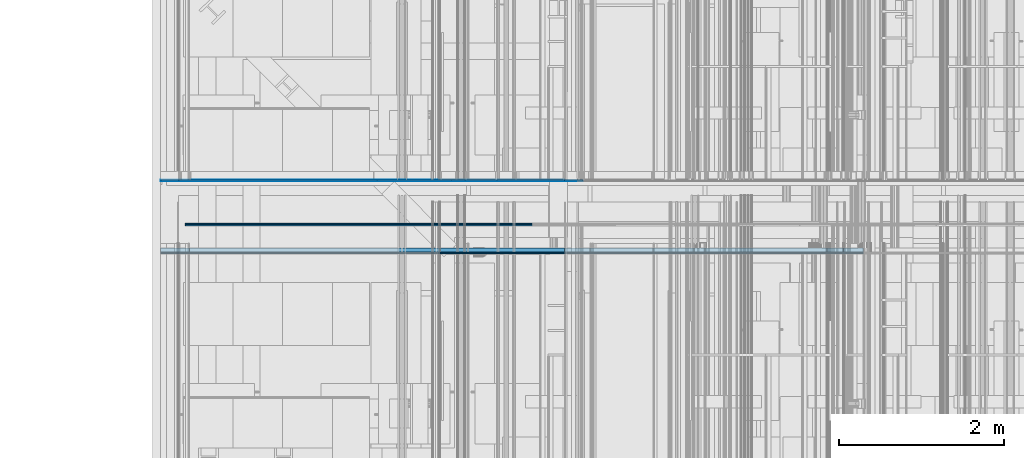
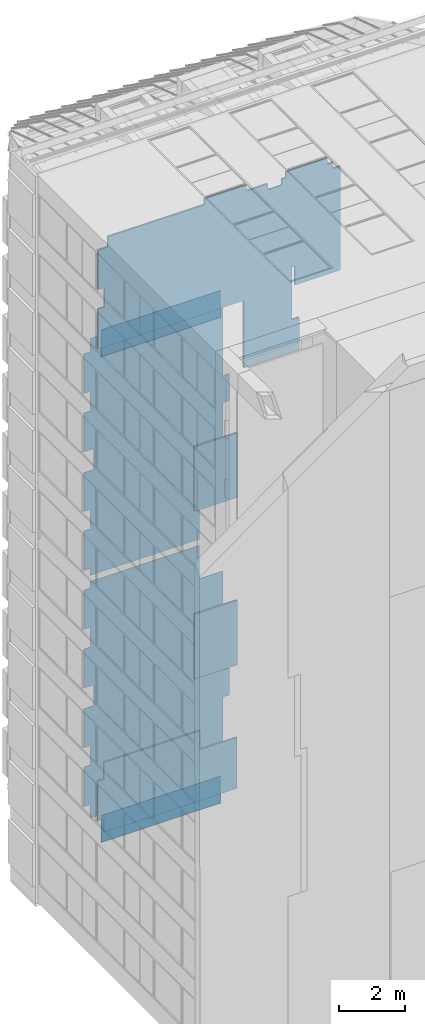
# One storey, part 251 of 583: 17 slabs.
"""IFC2X3 building model written with IfcOpenShell, lengths in metres."""

from ifc_helpers import new_model, entity, si_unit, converted_unit, derived_unit, money_unit, direction, frame, origin_with_axes, place, context, subcontext, project, spatial, faceted_brep, material, type_object, element, save


model = new_model("IFC2X3")

# Units and contexts
model_context = context("Model", 3, precision=1e-05, world=origin_with_axes(), true_north=direction((0.0, 1.0)))
body_context = subcontext(model_context, "Body", "Model", "MODEL_VIEW", scale=1.0)
ifc_project = project(units=[si_unit("LENGTHUNIT", "METRE"), si_unit("AREAUNIT", "SQUARE_METRE"), si_unit("VOLUMEUNIT", "CUBIC_METRE"), si_unit("ABSORBEDDOSEUNIT", "GRAY"), si_unit("AMOUNTOFSUBSTANCEUNIT", "MOLE"), si_unit("DOSEEQUIVALENTUNIT", "SIEVERT"), si_unit("ELECTRICCAPACITANCEUNIT", "FARAD"), si_unit("ELECTRICCHARGEUNIT", "COULOMB"), si_unit("ELECTRICCONDUCTANCEUNIT", "SIEMENS"), si_unit("ELECTRICCURRENTUNIT", "AMPERE"), si_unit("ELECTRICRESISTANCEUNIT", "OHM"), si_unit("ELECTRICVOLTAGEUNIT", "VOLT"), si_unit("ENERGYUNIT", "JOULE"), si_unit("FORCEUNIT", "NEWTON"), si_unit("FREQUENCYUNIT", "HERTZ"), si_unit("ILLUMINANCEUNIT", "LUX"), si_unit("INDUCTANCEUNIT", "HENRY"), si_unit("LUMINOUSFLUXUNIT", "LUMEN"), si_unit("LUMINOUSINTENSITYUNIT", "CANDELA"), si_unit("MAGNETICFLUXDENSITYUNIT", "TESLA"), si_unit("MAGNETICFLUXUNIT", "WEBER"), si_unit("MASSUNIT", "GRAM"), converted_unit("PLANEANGLEUNIT", "degree", entity("IfcReal", 0.0174532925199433), si_unit("PLANEANGLEUNIT", "RADIAN"), dimensions=[0, 0, 0, 0, 0, 0, 0]), si_unit("POWERUNIT", "WATT"), si_unit("PRESSUREUNIT", "PASCAL"), si_unit("RADIOACTIVITYUNIT", "BECQUEREL"), si_unit("SOLIDANGLEUNIT", "STERADIAN"), si_unit("THERMODYNAMICTEMPERATUREUNIT", "KELVIN"), si_unit("TIMEUNIT", "SECOND"), derived_unit("ACCELERATIONUNIT", [(si_unit("LENGTHUNIT", "METRE"), 1), (si_unit("TIMEUNIT", "SECOND"), -2)]), derived_unit("ANGULARVELOCITYUNIT", [(converted_unit("PLANEANGLEUNIT", "degree", entity("IfcReal", 0.0174532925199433), si_unit("PLANEANGLEUNIT", "RADIAN"), dimensions=[0, 0, 0, 0, 0, 0, 0]), 1), (si_unit("TIMEUNIT", "SECOND"), -1)]), derived_unit("CURVATUREUNIT", [(converted_unit("PLANEANGLEUNIT", "degree", entity("IfcReal", 0.0174532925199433), si_unit("PLANEANGLEUNIT", "RADIAN"), dimensions=[0, 0, 0, 0, 0, 0, 0]), 1), (si_unit("LENGTHUNIT", "METRE"), -1)]), derived_unit("DYNAMICVISCOSITYUNIT", [(si_unit("PRESSUREUNIT", "PASCAL"), 1), (si_unit("TIMEUNIT", "SECOND"), 1)]), derived_unit("HEATFLUXDENSITYUNIT", [(si_unit("POWERUNIT", "WATT"), 1), (si_unit("LENGTHUNIT", "METRE"), -2)]), derived_unit("HEATINGVALUEUNIT", [(si_unit("ENERGYUNIT", "JOULE"), 1), (si_unit("MASSUNIT", "GRAM"), -1)]), derived_unit("INTEGERCOUNTRATEUNIT", [(si_unit("TIMEUNIT", "SECOND"), -1)]), derived_unit("IONCONCENTRATIONUNIT", [(si_unit("MASSUNIT", "GRAM"), 1), (si_unit("VOLUMEUNIT", "CUBIC_METRE"), -1)]), derived_unit("ISOTHERMALMOISTURECAPACITYUNIT", [(si_unit("VOLUMEUNIT", "CUBIC_METRE"), 1), (si_unit("MASSUNIT", "GRAM"), -1)]), derived_unit("KINEMATICVISCOSITYUNIT", [(si_unit("AREAUNIT", "SQUARE_METRE"), 1), (si_unit("TIMEUNIT", "SECOND"), -1)]), derived_unit("LINEARFORCEUNIT", [(si_unit("FORCEUNIT", "NEWTON"), 1), (si_unit("LENGTHUNIT", "METRE"), -1)]), derived_unit("LINEARMOMENTUNIT", [(si_unit("FORCEUNIT", "NEWTON"), 1), (si_unit("LENGTHUNIT", "METRE"), -1)]), derived_unit("LINEARSTIFFNESSUNIT", [(si_unit("FORCEUNIT", "NEWTON"), 1), (si_unit("LENGTHUNIT", "METRE"), -1)]), derived_unit("LINEARVELOCITYUNIT", [(si_unit("LENGTHUNIT", "METRE"), 1), (si_unit("TIMEUNIT", "SECOND"), -1)]), derived_unit("LUMINOUSINTENSITYDISTRIBUTIONUNIT", [(si_unit("LUMINOUSINTENSITYUNIT", "CANDELA"), 1), (si_unit("LUMINOUSFLUXUNIT", "LUMEN"), -1)]), derived_unit("MASSDENSITYUNIT", [(si_unit("MASSUNIT", "GRAM"), 1), (si_unit("VOLUMEUNIT", "CUBIC_METRE"), -1)]), derived_unit("MASSFLOWRATEUNIT", [(si_unit("MASSUNIT", "GRAM"), 1), (si_unit("TIMEUNIT", "SECOND"), -1)]), derived_unit("MASSPERLENGTHUNIT", [(si_unit("MASSUNIT", "GRAM"), 1), (si_unit("LENGTHUNIT", "METRE"), -1)]), derived_unit("MODULUSOFELASTICITYUNIT", [(si_unit("FORCEUNIT", "NEWTON"), 1), (si_unit("AREAUNIT", "SQUARE_METRE"), -1)]), derived_unit("MODULUSOFLINEARSUBGRADEREACTIONUNIT", [(si_unit("FORCEUNIT", "NEWTON"), 1), (si_unit("LENGTHUNIT", "METRE"), -2)]), derived_unit("MODULUSOFROTATIONALSUBGRADEREACTIONUNIT", [(si_unit("FORCEUNIT", "NEWTON"), 1), (si_unit("LENGTHUNIT", "METRE"), 1)]), derived_unit("MODULUSOFSUBGRADEREACTIONUNIT", [(si_unit("FORCEUNIT", "NEWTON"), 1), (si_unit("VOLUMEUNIT", "CUBIC_METRE"), -1)]), derived_unit("MOISTUREDIFFUSIVITYUNIT", [(si_unit("VOLUMEUNIT", "CUBIC_METRE"), 1), (si_unit("TIMEUNIT", "SECOND"), -1)]), derived_unit("MOLECULARWEIGHTUNIT", [(si_unit("MASSUNIT", "GRAM"), 1), (si_unit("AMOUNTOFSUBSTANCEUNIT", "MOLE"), -1)]), derived_unit("PLANARFORCEUNIT", [(si_unit("FORCEUNIT", "NEWTON"), 1), (si_unit("LENGTHUNIT", "METRE"), -2)]), derived_unit("ROTATIONALFREQUENCYUNIT", [(si_unit("TIMEUNIT", "SECOND"), -1)]), derived_unit("ROTATIONALMASSUNIT", [(si_unit("MASSUNIT", "GRAM"), 1), (si_unit("LENGTHUNIT", "METRE"), 2)]), derived_unit("ROTATIONALSTIFFNESSUNIT", [(si_unit("FORCEUNIT", "NEWTON"), 1), (si_unit("LENGTHUNIT", "METRE"), 1), (converted_unit("PLANEANGLEUNIT", "degree", entity("IfcReal", 0.0174532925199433), si_unit("PLANEANGLEUNIT", "RADIAN"), dimensions=[0, 0, 0, 0, 0, 0, 0]), -1)]), derived_unit("SECTIONAREAINTEGRALUNIT", [(si_unit("LENGTHUNIT", "METRE"), 5)]), derived_unit("SECTIONMODULUSUNIT", [(si_unit("LENGTHUNIT", "METRE"), 3)]), derived_unit("SHEARMODULUSUNIT", [(si_unit("FORCEUNIT", "NEWTON"), 1), (si_unit("AREAUNIT", "SQUARE_METRE"), -1)]), derived_unit("SOUNDPOWERUNIT", [(si_unit("ENERGYUNIT", "JOULE"), 1), (si_unit("TIMEUNIT", "SECOND"), -1)]), derived_unit("SPECIFICHEATCAPACITYUNIT", [(si_unit("FORCEUNIT", "NEWTON"), 1), (si_unit("MASSUNIT", "GRAM"), -1), (si_unit("THERMODYNAMICTEMPERATUREUNIT", "KELVIN"), -1)]), derived_unit("TEMPERATUREGRADIENTUNIT", [(si_unit("THERMODYNAMICTEMPERATUREUNIT", "KELVIN"), 1), (si_unit("LENGTHUNIT", "METRE"), -1)]), derived_unit("THERMALADMITTANCEUNIT", [(si_unit("POWERUNIT", "WATT"), 1), (si_unit("AREAUNIT", "SQUARE_METRE"), -1), (si_unit("THERMODYNAMICTEMPERATUREUNIT", "KELVIN"), -1)]), derived_unit("THERMALCONDUCTANCEUNIT", [(si_unit("POWERUNIT", "WATT"), 1), (si_unit("LENGTHUNIT", "METRE"), -1), (si_unit("THERMODYNAMICTEMPERATUREUNIT", "KELVIN"), -1)]), derived_unit("THERMALEXPANSIONCOEFFICIENTUNIT", [(si_unit("THERMODYNAMICTEMPERATUREUNIT", "KELVIN"), -1)]), derived_unit("THERMALRESISTANCEUNIT", [(si_unit("AREAUNIT", "SQUARE_METRE"), 1), (si_unit("POWERUNIT", "WATT"), -1)]), derived_unit("THERMALTRANSMITTANCEUNIT", [(si_unit("POWERUNIT", "WATT"), 1), (si_unit("AREAUNIT", "SQUARE_METRE"), -1), (si_unit("THERMODYNAMICTEMPERATUREUNIT", "KELVIN"), -1)]), derived_unit("TORQUEUNIT", [(si_unit("FORCEUNIT", "NEWTON"), 1), (si_unit("LENGTHUNIT", "METRE"), 1)]), derived_unit("VAPORPERMEABILITYUNIT", [(si_unit("MASSUNIT", "GRAM"), 1), (si_unit("TIMEUNIT", "SECOND"), -1)]), derived_unit("VOLUMETRICFLOWRATEUNIT", [(si_unit("VOLUMEUNIT", "CUBIC_METRE"), 1), (si_unit("TIMEUNIT", "SECOND"), -1)]), derived_unit("WARPINGCONSTANTUNIT", [(si_unit("LENGTHUNIT", "METRE"), 6)]), derived_unit("WARPINGMOMENTUNIT", [(si_unit("FORCEUNIT", "NEWTON"), 1), (si_unit("LENGTHUNIT", "METRE"), 2)]), money_unit("GBP")], contexts=[model_context])

# Site, building, storey
site_placement = place(None, origin_with_axes())
site = spatial("IfcSite", under=ifc_project, at=site_placement, Name="Site", CompositionType="ELEMENT")
building_placement = place(site_placement, origin_with_axes())
building = spatial("IfcBuilding", under=site, at=building_placement, Name="Building01", CompositionType="ELEMENT")
storey_placement = place(building_placement, frame((0.0, 0.0, 20.78), z_axis=(0.0, 0.0, 1.0), x_axis=(1.0, 0.0, 0.0)))
storey = spatial("IfcBuildingStorey", under=building, at=storey_placement, Name="RL", CompositionType="ELEMENT", Elevation=20.78)

# Slabs
ifc_material_1 = material(Name="A_BSUK_ExpandedPolystyreneBoards")
slab_type_1 = type_object("IfcSlabType", Name="A-FloorsSlabs A_BSUK_Slabs", PredefinedType="FLOOR")
placement = place(storey_placement, frame((0.0, 0.0, -20.78), z_axis=(0.0, 0.0, 1.0), x_axis=(1.0, 0.0, 0.0)))
element("IfcSlab", 1, at=placement, inside=storey, type_object=slab_type_1, material=ifc_material_1, Name="A-FloorsSlabs A_BSUK_Slabs", ObjectType="CompoundSlabLeaf", context=body_context, shape_type="Brep", body=[
    faceted_brep([(4.164428, 12.13, 14.85), (4.164428, 12.133, 14.85), (4.98, 12.133, 14.85), (4.98, 12.13, 14.85), (4.164428, 12.13, 13.6125), (4.164428, 12.133, 13.6125), (0.318, 12.13, 13.6125), (0.318, 12.133, 13.6125), (0.318, 12.13, 13.865), (0.318, 12.133, 13.865), (0.1, 12.13, 13.865), (0.1, 12.133, 13.865), (0.1, 12.13, 15.335), (0.1, 12.133, 15.335), (0.318, 12.13, 15.335), (0.318, 12.133, 15.335), (0.318, 12.13, 16.055), (0.318, 12.133, 16.055), (0.1, 12.13, 16.055), (0.1, 12.133, 16.055), (0.1, 12.13, 17.502), (0.1, 12.133, 17.502), (0.448, 12.13, 17.502), (0.448, 12.133, 17.502), (0.448, 12.13, 18.268), (0.448, 12.133, 18.268), (0.1, 12.13, 18.268), (0.1, 12.133, 18.268), (0.1, 12.13, 19.715), (0.1, 12.133, 19.715), (0.318, 12.13, 19.715), (0.318, 12.133, 19.715), (0.318, 12.13, 20.435), (0.318, 12.133, 20.435), (0.1, 12.13, 20.435), (0.1, 12.133, 20.435), (0.1, 12.13, 21.905), (0.1, 12.133, 21.905), (0.318, 12.13, 21.905), (0.318, 12.133, 21.905), (0.318, 12.13, 22.4), (0.318, 12.133, 22.4), (4.98, 12.13, 22.4), (4.98, 12.133, 22.4), (4.98, 12.13, 19.392), (4.98, 12.133, 19.392), (5.205, 12.13, 19.392), (5.205, 12.133, 19.392), (5.205, 12.13, 18.392), (5.205, 12.133, 18.392), (4.98, 12.13, 18.392), (4.98, 12.133, 18.392), (4.98, 12.13, 18.0), (4.98, 12.133, 18.0)], [[[0, 1, 2, 3]], [[4, 5, 1, 0]], [[6, 7, 5, 4]], [[8, 9, 7, 6]], [[10, 11, 9, 8]], [[12, 13, 11, 10]], [[14, 15, 13, 12]], [[16, 17, 15, 14]], [[18, 19, 17, 16]], [[20, 21, 19, 18]], [[22, 23, 21, 20]], [[24, 25, 23, 22]], [[26, 27, 25, 24]], [[28, 29, 27, 26]], [[30, 31, 29, 28]], [[32, 33, 31, 30]], [[34, 35, 33, 32]], [[36, 37, 35, 34]], [[38, 39, 37, 36]], [[40, 41, 39, 38]], [[42, 43, 41, 40]], [[44, 45, 43, 42]], [[46, 47, 45, 44]], [[48, 49, 47, 46]], [[50, 51, 49, 48]], [[52, 53, 51, 50]], [[3, 2, 53, 52]], [[1, 5, 7, 9, 11, 13, 15, 17, 19, 21, 23, 25, 27, 29, 31, 33, 35, 37, 39, 41, 43, 45, 47, 49, 51, 53, 2]], [[3, 52, 50, 48, 46, 44, 42, 40, 38, 36, 34, 32, 30, 28, 26, 24, 22, 20, 18, 16, 14, 12, 10, 8, 6, 4, 0]]]),
])
element("IfcSlab", 2, at=placement, inside=storey, type_object=slab_type_1, material=ifc_material_1, Name="A-FloorsSlabs A_BSUK_Slabs", ObjectType="CompoundSlabLeaf", context=body_context, shape_type="Brep", body=[
    faceted_brep([(4.98, 12.13, 12.15), (4.98, 12.133, 12.15), (4.164428, 12.133, 12.15), (4.164428, 12.13, 12.15), (4.98, 12.13, 9.0), (4.98, 12.133, 9.0), (4.98, 12.13, 8.4725), (4.98, 12.133, 8.4725), (5.205, 12.13, 8.4725), (5.205, 12.133, 8.4725), (5.205, 12.13, 7.4725), (5.205, 12.133, 7.4725), (4.98, 12.13, 7.4725), (4.98, 12.133, 7.4725), (4.98, 12.13, 4.61), (4.98, 12.133, 4.61), (0.318, 12.13, 4.61), (0.318, 12.133, 4.61), (0.318, 12.13, 5.105), (0.318, 12.133, 5.105), (0.1, 12.13, 5.105), (0.1, 12.133, 5.105), (0.1, 12.13, 6.575), (0.1, 12.133, 6.575), (0.318, 12.13, 6.575), (0.318, 12.133, 6.575), (0.318, 12.13, 7.295), (0.318, 12.133, 7.295), (0.1, 12.13, 7.295), (0.1, 12.133, 7.295), (0.1, 12.13, 8.742), (0.1, 12.133, 8.742), (0.448, 12.13, 8.742), (0.448, 12.133, 8.742), (0.448, 12.13, 9.508), (0.448, 12.133, 9.508), (0.1, 12.13, 9.508), (0.1, 12.133, 9.508), (0.1, 12.13, 10.955), (0.1, 12.133, 10.955), (0.318, 12.13, 10.955), (0.318, 12.133, 10.955), (0.318, 12.13, 11.675), (0.318, 12.133, 11.675), (0.1, 12.13, 11.675), (0.1, 12.133, 11.675), (0.1, 12.13, 13.145), (0.1, 12.133, 13.145), (0.318, 12.13, 13.145), (0.318, 12.133, 13.145), (0.318, 12.13, 13.3875), (0.318, 12.133, 13.3875), (4.164428, 12.13, 13.3875), (4.164428, 12.133, 13.3875)], [[[0, 1, 2, 3]], [[4, 5, 1, 0]], [[6, 7, 5, 4]], [[8, 9, 7, 6]], [[10, 11, 9, 8]], [[12, 13, 11, 10]], [[14, 15, 13, 12]], [[16, 17, 15, 14]], [[18, 19, 17, 16]], [[20, 21, 19, 18]], [[22, 23, 21, 20]], [[24, 25, 23, 22]], [[26, 27, 25, 24]], [[28, 29, 27, 26]], [[30, 31, 29, 28]], [[32, 33, 31, 30]], [[34, 35, 33, 32]], [[36, 37, 35, 34]], [[38, 39, 37, 36]], [[40, 41, 39, 38]], [[42, 43, 41, 40]], [[44, 45, 43, 42]], [[46, 47, 45, 44]], [[48, 49, 47, 46]], [[50, 51, 49, 48]], [[52, 53, 51, 50]], [[3, 2, 53, 52]], [[1, 5, 7, 9, 11, 13, 15, 17, 19, 21, 23, 25, 27, 29, 31, 33, 35, 37, 39, 41, 43, 45, 47, 49, 51, 53, 2]], [[3, 52, 50, 48, 46, 44, 42, 40, 38, 36, 34, 32, 30, 28, 26, 24, 22, 20, 18, 16, 14, 12, 10, 8, 6, 4, 0]]]),
])
ifc_material_2 = material(Name="A_BSUK_Parquet_Floor")
element("IfcSlab", 3, at=placement, inside=storey, type_object=slab_type_1, material=ifc_material_2, Name="A-FloorsSlabs A_BSUK_Slabs", ObjectType="CompoundSlabLeaf", context=body_context, shape_type="Brep", body=[
    faceted_brep([(4.98, 12.133, 18.392), (4.98, 12.145, 18.392), (5.205, 12.145, 18.392), (5.205, 12.133, 18.392), (4.98, 12.133, 17.9025), (4.98, 12.145, 17.9025), (4.363781, 12.133, 17.9025), (4.363781, 12.145, 17.9025), (4.363781, 12.133, 17.8075), (4.363781, 12.145, 17.8075), (3.613781, 12.133, 17.8075), (3.613781, 12.145, 17.8075), (3.613781, 12.133, 17.9025), (3.613781, 12.145, 17.9025), (3.385, 12.133, 17.9025), (3.385, 12.145, 17.9025), (3.385, 12.133, 15.3125), (3.385, 12.145, 15.3125), (4.98, 12.133, 15.3125), (4.98, 12.145, 15.3125), (4.98, 12.133, 14.85), (4.98, 12.145, 14.85), (4.164428, 12.133, 14.85), (4.164428, 12.145, 14.85), (4.164428, 12.133, 13.6125), (4.164428, 12.145, 13.6125), (0.318, 12.133, 13.6125), (0.318, 12.145, 13.6125), (0.318, 12.133, 13.865), (0.318, 12.145, 13.865), (0.1, 12.133, 13.865), (0.1, 12.145, 13.865), (0.1, 12.133, 15.335), (0.1, 12.145, 15.335), (0.318, 12.133, 15.335), (0.318, 12.145, 15.335), (0.318, 12.133, 16.055), (0.318, 12.145, 16.055), (0.1, 12.133, 16.055), (0.1, 12.145, 16.055), (0.1, 12.133, 17.502), (0.1, 12.145, 17.502), (0.448, 12.133, 17.502), (0.448, 12.145, 17.502), (0.448, 12.133, 18.268), (0.448, 12.145, 18.268), (0.1, 12.133, 18.268), (0.1, 12.145, 18.268), (0.1, 12.133, 19.715), (0.1, 12.145, 19.715), (2.716, 12.133, 19.715), (2.716, 12.145, 19.715), (2.716, 12.133, 19.81), (2.716, 12.145, 19.81), (3.616, 12.133, 19.81), (3.616, 12.145, 19.81), (3.616, 12.133, 19.715), (3.616, 12.145, 19.715), (3.78, 12.133, 19.715), (3.78, 12.145, 19.715), (3.78, 12.133, 20.415), (3.78, 12.145, 20.415), (4.98, 12.133, 20.415), (4.98, 12.145, 20.415), (4.98, 12.133, 19.392), (4.98, 12.145, 19.392), (5.205, 12.133, 19.392), (5.205, 12.145, 19.392)], [[[0, 1, 2, 3]], [[4, 5, 1, 0]], [[6, 7, 5, 4]], [[8, 9, 7, 6]], [[10, 11, 9, 8]], [[12, 13, 11, 10]], [[14, 15, 13, 12]], [[16, 17, 15, 14]], [[18, 19, 17, 16]], [[20, 21, 19, 18]], [[22, 23, 21, 20]], [[24, 25, 23, 22]], [[26, 27, 25, 24]], [[28, 29, 27, 26]], [[30, 31, 29, 28]], [[32, 33, 31, 30]], [[34, 35, 33, 32]], [[36, 37, 35, 34]], [[38, 39, 37, 36]], [[40, 41, 39, 38]], [[42, 43, 41, 40]], [[44, 45, 43, 42]], [[46, 47, 45, 44]], [[48, 49, 47, 46]], [[50, 51, 49, 48]], [[52, 53, 51, 50]], [[54, 55, 53, 52]], [[56, 57, 55, 54]], [[58, 59, 57, 56]], [[60, 61, 59, 58]], [[62, 63, 61, 60]], [[64, 65, 63, 62]], [[66, 67, 65, 64]], [[3, 2, 67, 66]], [[1, 5, 7, 9, 11, 13, 15, 17, 19, 21, 23, 25, 27, 29, 31, 33, 35, 37, 39, 41, 43, 45, 47, 49, 51, 53, 55, 57, 59, 61, 63, 65, 67, 2]], [[3, 66, 64, 62, 60, 58, 56, 54, 52, 50, 48, 46, 44, 42, 40, 38, 36, 34, 32, 30, 28, 26, 24, 22, 20, 18, 16, 14, 12, 10, 8, 6, 4, 0]]]),
])
ifc_material_3 = material(Name="A_BSUK_Carpet-Pile")
element("IfcSlab", 4, at=placement, inside=storey, type_object=slab_type_1, material=ifc_material_3, Name="A-FloorsSlabs A_BSUK_Slabs", ObjectType="CompoundSlabLeaf", context=body_context, shape_type="Brep", body=[
    faceted_brep([(4.98, 12.133, 20.51), (4.98, 12.145, 20.51), (4.98, 12.145, 22.4), (4.98, 12.133, 22.4), (3.685, 12.133, 20.51), (3.685, 12.145, 20.51), (3.685, 12.133, 19.81), (3.685, 12.145, 19.81), (0.318, 12.133, 19.81), (0.318, 12.145, 19.81), (0.318, 12.133, 20.435), (0.318, 12.145, 20.435), (0.1, 12.133, 20.435), (0.1, 12.145, 20.435), (0.1, 12.133, 21.905), (0.1, 12.145, 21.905), (0.318, 12.133, 21.905), (0.318, 12.145, 21.905), (0.318, 12.133, 22.4), (0.318, 12.145, 22.4)], [[[0, 1, 2, 3]], [[4, 5, 1, 0]], [[6, 7, 5, 4]], [[8, 9, 7, 6]], [[10, 11, 9, 8]], [[12, 13, 11, 10]], [[14, 15, 13, 12]], [[16, 17, 15, 14]], [[18, 19, 17, 16]], [[3, 2, 19, 18]], [[1, 5, 7, 9, 11, 13, 15, 17, 19, 2]], [[3, 18, 16, 14, 12, 10, 8, 6, 4, 0]]]),
])
element("IfcSlab", 5, at=placement, inside=storey, type_object=slab_type_1, material=ifc_material_2, Name="A-FloorsSlabs A_BSUK_Slabs", ObjectType="CompoundSlabLeaf", context=body_context, shape_type="Brep", body=[
    faceted_brep([(5.205, 12.133, 8.4725), (5.205, 12.145, 8.4725), (4.98, 12.145, 8.4725), (4.98, 12.133, 8.4725), (5.205, 12.133, 7.4725), (5.205, 12.145, 7.4725), (4.98, 12.133, 7.4725), (4.98, 12.145, 7.4725), (4.98, 12.133, 6.595), (4.98, 12.145, 6.595), (3.78, 12.133, 6.595), (3.78, 12.145, 6.595), (3.78, 12.133, 7.295), (3.78, 12.145, 7.295), (3.616, 12.133, 7.295), (3.616, 12.145, 7.295), (3.616, 12.133, 7.2), (3.616, 12.145, 7.2), (2.716, 12.133, 7.2), (2.716, 12.145, 7.2), (2.716, 12.133, 7.295), (2.716, 12.145, 7.295), (0.1, 12.133, 7.295), (0.1, 12.145, 7.295), (0.1, 12.133, 8.742), (0.1, 12.145, 8.742), (0.448, 12.133, 8.742), (0.448, 12.145, 8.742), (0.448, 12.133, 9.508), (0.448, 12.145, 9.508), (0.1, 12.133, 9.508), (0.1, 12.145, 9.508), (0.1, 12.133, 10.955), (0.1, 12.145, 10.955), (0.318, 12.133, 10.955), (0.318, 12.145, 10.955), (0.318, 12.133, 11.675), (0.318, 12.145, 11.675), (0.1, 12.133, 11.675), (0.1, 12.145, 11.675), (0.1, 12.133, 13.145), (0.1, 12.145, 13.145), (0.318, 12.133, 13.145), (0.318, 12.145, 13.145), (0.318, 12.133, 13.3875), (0.318, 12.145, 13.3875), (4.164428, 12.133, 13.3875), (4.164428, 12.145, 13.3875), (4.164428, 12.133, 12.15), (4.164428, 12.145, 12.15), (4.98, 12.133, 12.15), (4.98, 12.145, 12.15), (4.98, 12.133, 11.687536), (4.98, 12.145, 11.687536), (3.385, 12.133, 11.687536), (3.385, 12.145, 11.687536), (3.385, 12.133, 9.097536), (3.385, 12.145, 9.097536), (3.613781, 12.133, 9.097536), (3.613781, 12.145, 9.097536), (3.613781, 12.133, 9.192536), (3.613781, 12.145, 9.192536), (4.363781, 12.133, 9.192536), (4.363781, 12.145, 9.192536), (4.363781, 12.133, 9.097536), (4.363781, 12.145, 9.097536), (4.98, 12.133, 9.097536), (4.98, 12.145, 9.097536)], [[[0, 1, 2, 3]], [[4, 5, 1, 0]], [[6, 7, 5, 4]], [[8, 9, 7, 6]], [[10, 11, 9, 8]], [[12, 13, 11, 10]], [[14, 15, 13, 12]], [[16, 17, 15, 14]], [[18, 19, 17, 16]], [[20, 21, 19, 18]], [[22, 23, 21, 20]], [[24, 25, 23, 22]], [[26, 27, 25, 24]], [[28, 29, 27, 26]], [[30, 31, 29, 28]], [[32, 33, 31, 30]], [[34, 35, 33, 32]], [[36, 37, 35, 34]], [[38, 39, 37, 36]], [[40, 41, 39, 38]], [[42, 43, 41, 40]], [[44, 45, 43, 42]], [[46, 47, 45, 44]], [[48, 49, 47, 46]], [[50, 51, 49, 48]], [[52, 53, 51, 50]], [[54, 55, 53, 52]], [[56, 57, 55, 54]], [[58, 59, 57, 56]], [[60, 61, 59, 58]], [[62, 63, 61, 60]], [[64, 65, 63, 62]], [[66, 67, 65, 64]], [[3, 2, 67, 66]], [[1, 5, 7, 9, 11, 13, 15, 17, 19, 21, 23, 25, 27, 29, 31, 33, 35, 37, 39, 41, 43, 45, 47, 49, 51, 53, 55, 57, 59, 61, 63, 65, 67, 2]], [[3, 66, 64, 62, 60, 58, 56, 54, 52, 50, 48, 46, 44, 42, 40, 38, 36, 34, 32, 30, 28, 26, 24, 22, 20, 18, 16, 14, 12, 10, 8, 6, 4, 0]]]),
])
element("IfcSlab", 6, at=placement, inside=storey, type_object=slab_type_1, material=ifc_material_3, Name="A-FloorsSlabs A_BSUK_Slabs", ObjectType="CompoundSlabLeaf", context=body_context, shape_type="Brep", body=[
    faceted_brep([(4.98, 12.133, 4.61), (4.98, 12.145, 4.61), (4.98, 12.145, 6.5), (4.98, 12.133, 6.5), (0.318, 12.133, 4.61), (0.318, 12.145, 4.61), (0.318, 12.133, 5.105), (0.318, 12.145, 5.105), (0.1, 12.133, 5.105), (0.1, 12.145, 5.105), (0.1, 12.133, 6.575), (0.1, 12.145, 6.575), (0.318, 12.133, 6.575), (0.318, 12.145, 6.575), (0.318, 12.133, 7.2), (0.318, 12.145, 7.2), (3.685, 12.133, 7.2), (3.685, 12.145, 7.2), (3.685, 12.133, 6.5), (3.685, 12.145, 6.5)], [[[0, 1, 2, 3]], [[4, 5, 1, 0]], [[6, 7, 5, 4]], [[8, 9, 7, 6]], [[10, 11, 9, 8]], [[12, 13, 11, 10]], [[14, 15, 13, 12]], [[16, 17, 15, 14]], [[18, 19, 17, 16]], [[3, 2, 19, 18]], [[1, 5, 7, 9, 11, 13, 15, 17, 19, 2]], [[3, 18, 16, 14, 12, 10, 8, 6, 4, 0]]]),
])
ifc_material_4 = material(Name="A_BSUK_CeilingSoffitFinishes_Suspended")
element("IfcSlab", 7, at=placement, inside=storey, type_object=slab_type_1, material=ifc_material_4, Name="A-FloorsSlabs A_BSUK_Slabs", ObjectType="CompoundSlabLeaf", context=body_context, shape_type="Brep", body=[
    faceted_brep([(4.98, 11.255, 9.192536), (4.98, 11.27, 9.192536), (4.98, 11.27, 11.592536), (4.98, 11.255, 11.592536), (3.48, 11.255, 9.192536), (3.48, 11.27, 9.192536), (3.48, 11.255, 11.592536), (3.48, 11.27, 11.592536), (4.259428, 11.255, 11.592536), (4.259428, 11.27, 11.592536)], [[[0, 1, 2, 3]], [[4, 5, 1, 0]], [[6, 7, 5, 4]], [[8, 9, 7, 6]], [[3, 2, 9, 8]], [[1, 5, 7, 9, 2]], [[3, 8, 6, 4, 0]]]),
])
element("IfcSlab", 8, at=placement, inside=storey, type_object=slab_type_1, material=ifc_material_4, Name="A-FloorsSlabs A_BSUK_Slabs", ObjectType="CompoundSlabLeaf", context=body_context, shape_type="Brep", body=[
    faceted_brep([(5.457147, 11.255, 20.122661), (5.457147, 11.27, 20.122661), (6.457147, 11.27, 20.122661), (6.457147, 11.255, 20.122661), (5.205, 11.255, 20.122661), (5.205, 11.27, 20.122661), (5.205, 11.255, 22.625), (5.205, 11.27, 22.625), (0.1, 11.255, 22.625), (0.1, 11.27, 22.625), (0.1, 11.255, 24.095), (0.1, 11.27, 24.095), (0.318, 11.255, 24.095), (0.318, 11.27, 24.095), (0.318, 11.255, 24.815), (0.318, 11.27, 24.815), (0.1, 11.255, 24.815), (0.1, 11.27, 24.815), (0.1, 11.255, 26.285), (0.1, 11.27, 26.285), (0.448, 11.255, 26.285), (0.448, 11.27, 26.285), (0.448, 11.255, 26.662), (0.448, 11.27, 26.662), (3.82218, 11.255, 26.662), (3.82218, 11.27, 26.662), (3.82218, 11.255, 26.88), (3.82218, 11.27, 26.88), (5.29218, 11.255, 26.88), (5.29218, 11.27, 26.88), (5.29218, 11.255, 26.662), (5.29218, 11.27, 26.662), (6.052, 11.255, 26.662), (6.052, 11.27, 26.662), (6.052, 11.255, 26.432), (6.052, 11.27, 26.432), (6.548, 11.255, 26.432), (6.548, 11.27, 26.432), (6.548, 11.255, 26.662), (6.548, 11.27, 26.662), (6.682326, 11.255, 26.662), (6.682326, 11.27, 26.662), (6.682326, 11.255, 26.88), (6.682326, 11.27, 26.88), (8.137326, 11.255, 26.88), (8.137326, 11.27, 26.88), (8.137326, 11.255, 26.647), (8.137326, 11.27, 26.647), (8.337, 11.255, 26.647), (8.337, 11.27, 26.647), (8.337, 11.255, 26.417), (8.337, 11.27, 26.417), (8.595, 11.255, 26.417), (8.595, 11.27, 26.417), (8.595, 11.255, 22.571661), (8.595, 11.27, 22.571661), (7.0, 11.255, 22.571661), (7.0, 11.27, 22.571661), (7.0, 11.255, 23.271529), (7.0, 11.27, 23.271529), (6.955, 11.255, 23.271529), (6.955, 11.27, 23.271529), (6.905, 11.255, 23.271529), (6.905, 11.27, 23.271529), (6.905, 11.255, 21.322661), (6.905, 11.27, 21.322661), (7.155, 11.255, 21.322661), (7.155, 11.27, 21.322661), (7.155, 11.255, 20.122661), (7.155, 11.27, 20.122661)], [[[0, 1, 2, 3]], [[4, 5, 1, 0]], [[6, 7, 5, 4]], [[8, 9, 7, 6]], [[10, 11, 9, 8]], [[12, 13, 11, 10]], [[14, 15, 13, 12]], [[16, 17, 15, 14]], [[18, 19, 17, 16]], [[20, 21, 19, 18]], [[22, 23, 21, 20]], [[24, 25, 23, 22]], [[26, 27, 25, 24]], [[28, 29, 27, 26]], [[30, 31, 29, 28]], [[32, 33, 31, 30]], [[34, 35, 33, 32]], [[36, 37, 35, 34]], [[38, 39, 37, 36]], [[40, 41, 39, 38]], [[42, 43, 41, 40]], [[44, 45, 43, 42]], [[46, 47, 45, 44]], [[48, 49, 47, 46]], [[50, 51, 49, 48]], [[52, 53, 51, 50]], [[54, 55, 53, 52]], [[56, 57, 55, 54]], [[58, 59, 57, 56]], [[60, 61, 59, 58]], [[62, 63, 61, 60]], [[64, 65, 63, 62]], [[66, 67, 65, 64]], [[68, 69, 67, 66]], [[3, 2, 69, 68]], [[1, 5, 7, 9, 11, 13, 15, 17, 19, 21, 23, 25, 27, 29, 31, 33, 35, 37, 39, 41, 43, 45, 47, 49, 51, 53, 55, 57, 59, 61, 63, 65, 67, 69, 2]], [[3, 68, 66, 64, 62, 60, 58, 56, 54, 52, 50, 48, 46, 44, 42, 40, 38, 36, 34, 32, 30, 28, 26, 24, 22, 20, 18, 16, 14, 12, 10, 8, 6, 4, 0]]]),
])
element("IfcSlab", 9, at=placement, inside=storey, type_object=slab_type_1, material=ifc_material_4, Name="A-FloorsSlabs A_BSUK_Slabs", ObjectType="CompoundSlabLeaf", context=body_context, shape_type="Brep", body=[
    faceted_brep([(4.98, 11.255, 15.4075), (4.98, 11.27, 15.4075), (4.98, 11.27, 17.8075), (4.98, 11.255, 17.8075), (4.259428, 11.255, 15.4075), (4.259428, 11.27, 15.4075), (3.48, 11.255, 15.4075), (3.48, 11.27, 15.4075), (3.48, 11.255, 17.8075), (3.48, 11.27, 17.8075)], [[[0, 1, 2, 3]], [[4, 5, 1, 0]], [[6, 7, 5, 4]], [[8, 9, 7, 6]], [[3, 2, 9, 8]], [[1, 5, 7, 9, 2]], [[3, 8, 6, 4, 0]]]),
])
element("IfcSlab", 10, at=placement, inside=storey, type_object=slab_type_1, material=ifc_material_4, Name="A-FloorsSlabs A_BSUK_Slabs", ObjectType="CompoundSlabLeaf", context=body_context, shape_type="Brep", body=[
    faceted_brep([(0.4, 11.605, 22.0125), (0.4, 11.62, 22.0125), (4.593, 11.62, 22.0125), (4.593, 11.605, 22.0125), (0.4, 11.605, 23.0125), (0.4, 11.62, 23.0125), (4.593, 11.605, 23.0125), (4.593, 11.62, 23.0125)], [[[0, 1, 2, 3]], [[4, 5, 1, 0]], [[6, 7, 5, 4]], [[3, 2, 7, 6]], [[1, 5, 7, 2]], [[3, 6, 4, 0]]]),
])
element("IfcSlab", 11, at=placement, inside=storey, type_object=slab_type_1, material=ifc_material_4, Name="A-FloorsSlabs A_BSUK_Slabs", ObjectType="CompoundSlabLeaf", context=body_context, shape_type="Brep", body=[
    faceted_brep([(0.4, 11.605, 3.997), (0.4, 11.62, 3.997), (4.593, 11.62, 3.997), (4.593, 11.605, 3.997), (0.4, 11.605, 4.997), (0.4, 11.62, 4.997), (4.593, 11.605, 4.997), (4.593, 11.62, 4.997)], [[[0, 1, 2, 3]], [[4, 5, 1, 0]], [[6, 7, 5, 4]], [[3, 2, 7, 6]], [[1, 5, 7, 2]], [[3, 6, 4, 0]]]),
])
element("IfcSlab", 12, at=placement, inside=storey, type_object=slab_type_1, material=ifc_material_4, Name="A-FloorsSlabs A_BSUK_Slabs", ObjectType="CompoundSlabLeaf", context=body_context, shape_type="Brep", body=[
    faceted_brep([(0.4, 11.59, 22.0125), (0.4, 11.605, 22.0125), (4.593, 11.605, 22.0125), (4.593, 11.59, 22.0125), (0.4, 11.59, 23.0125), (0.4, 11.605, 23.0125), (4.593, 11.59, 23.0125), (4.593, 11.605, 23.0125)], [[[0, 1, 2, 3]], [[4, 5, 1, 0]], [[6, 7, 5, 4]], [[3, 2, 7, 6]], [[1, 5, 7, 2]], [[3, 6, 4, 0]]]),
])
element("IfcSlab", 13, at=placement, inside=storey, type_object=slab_type_1, material=ifc_material_4, Name="A-FloorsSlabs A_BSUK_Slabs", ObjectType="CompoundSlabLeaf", context=body_context, shape_type="Brep", body=[
    faceted_brep([(0.4, 11.59, 3.997), (0.4, 11.605, 3.997), (4.593, 11.605, 3.997), (4.593, 11.59, 3.997), (0.4, 11.59, 4.997), (0.4, 11.605, 4.997), (4.593, 11.59, 4.997), (4.593, 11.605, 4.997)], [[[0, 1, 2, 3]], [[4, 5, 1, 0]], [[6, 7, 5, 4]], [[3, 2, 7, 6]], [[1, 5, 7, 2]], [[3, 6, 4, 0]]]),
])
slab_type_2 = type_object("IfcSlabType", Name="A-FloorsSlabs A_BSUK_ExpandedPolystyreneBoards", PredefinedType="FLOOR")
element("IfcSlab", 14, at=placement, inside=storey, type_object=slab_type_2, material=ifc_material_1, Name="A-FloorsSlabs A_BSUK_ExpandedPolystyreneBoards", ObjectType="CompoundSlabLeaf", context=body_context, shape_type="Brep", body=[
    faceted_brep([(4.98, 11.27, 9.192536), (4.98, 11.32, 9.192536), (4.98, 11.32, 11.592536), (4.98, 11.27, 11.592536), (3.48, 11.27, 9.192536), (3.48, 11.32, 9.192536), (3.48, 11.27, 11.592536), (3.48, 11.32, 11.592536), (4.259428, 11.27, 11.592536), (4.259428, 11.32, 11.592536)], [[[0, 1, 2, 3]], [[4, 5, 1, 0]], [[6, 7, 5, 4]], [[8, 9, 7, 6]], [[3, 2, 9, 8]], [[1, 5, 7, 9, 2]], [[3, 8, 6, 4, 0]]]),
])
element("IfcSlab", 15, at=placement, inside=storey, type_object=slab_type_2, material=ifc_material_1, Name="A-FloorsSlabs A_BSUK_ExpandedPolystyreneBoards", ObjectType="CompoundSlabLeaf", context=body_context, shape_type="Brep", body=[
    faceted_brep([(5.457147, 11.27, 20.122661), (5.457147, 11.32, 20.122661), (6.457147, 11.32, 20.122661), (6.457147, 11.27, 20.122661), (5.205, 11.27, 20.122661), (5.205, 11.32, 20.122661), (5.205, 11.27, 22.625), (5.205, 11.32, 22.625), (0.1, 11.27, 22.625), (0.1, 11.32, 22.625), (0.1, 11.27, 24.095), (0.1, 11.32, 24.095), (0.318, 11.27, 24.095), (0.318, 11.32, 24.095), (0.318, 11.27, 24.815), (0.318, 11.32, 24.815), (0.1, 11.27, 24.815), (0.1, 11.32, 24.815), (0.1, 11.27, 26.285), (0.1, 11.32, 26.285), (0.448, 11.27, 26.285), (0.448, 11.32, 26.285), (0.448, 11.27, 26.662), (0.448, 11.32, 26.662), (3.82218, 11.27, 26.662), (3.82218, 11.32, 26.662), (3.82218, 11.27, 26.88), (3.82218, 11.32, 26.88), (5.29218, 11.27, 26.88), (5.29218, 11.32, 26.88), (5.29218, 11.27, 26.662), (5.29218, 11.32, 26.662), (6.052, 11.27, 26.662), (6.052, 11.32, 26.662), (6.052, 11.27, 26.432), (6.052, 11.32, 26.432), (6.548, 11.27, 26.432), (6.548, 11.32, 26.432), (6.548, 11.27, 26.662), (6.548, 11.32, 26.662), (6.682326, 11.27, 26.662), (6.682326, 11.32, 26.662), (6.682326, 11.27, 26.88), (6.682326, 11.32, 26.88), (8.152326, 11.27, 26.88), (8.152326, 11.32, 26.88), (8.152326, 11.27, 26.662), (8.152326, 11.32, 26.662), (8.352, 11.27, 26.662), (8.352, 11.32, 26.662), (8.352, 11.27, 26.432), (8.352, 11.32, 26.432), (8.595, 11.27, 26.432), (8.595, 11.32, 26.432), (8.595, 11.27, 22.571661), (8.595, 11.32, 22.571661), (7.0, 11.27, 22.571661), (7.0, 11.32, 22.571661), (7.0, 11.27, 23.271529), (7.0, 11.32, 23.271529), (6.955, 11.27, 23.271529), (6.955, 11.32, 23.271529), (6.905, 11.27, 23.271529), (6.905, 11.32, 23.271529), (6.905, 11.27, 21.322661), (6.905, 11.32, 21.322661), (7.155, 11.27, 21.322661), (7.155, 11.32, 21.322661), (7.155, 11.27, 20.122661), (7.155, 11.32, 20.122661)], [[[0, 1, 2, 3]], [[4, 5, 1, 0]], [[6, 7, 5, 4]], [[8, 9, 7, 6]], [[10, 11, 9, 8]], [[12, 13, 11, 10]], [[14, 15, 13, 12]], [[16, 17, 15, 14]], [[18, 19, 17, 16]], [[20, 21, 19, 18]], [[22, 23, 21, 20]], [[24, 25, 23, 22]], [[26, 27, 25, 24]], [[28, 29, 27, 26]], [[30, 31, 29, 28]], [[32, 33, 31, 30]], [[34, 35, 33, 32]], [[36, 37, 35, 34]], [[38, 39, 37, 36]], [[40, 41, 39, 38]], [[42, 43, 41, 40]], [[44, 45, 43, 42]], [[46, 47, 45, 44]], [[48, 49, 47, 46]], [[50, 51, 49, 48]], [[52, 53, 51, 50]], [[54, 55, 53, 52]], [[56, 57, 55, 54]], [[58, 59, 57, 56]], [[60, 61, 59, 58]], [[62, 63, 61, 60]], [[64, 65, 63, 62]], [[66, 67, 65, 64]], [[68, 69, 67, 66]], [[3, 2, 69, 68]], [[1, 5, 7, 9, 11, 13, 15, 17, 19, 21, 23, 25, 27, 29, 31, 33, 35, 37, 39, 41, 43, 45, 47, 49, 51, 53, 55, 57, 59, 61, 63, 65, 67, 69, 2]], [[3, 68, 66, 64, 62, 60, 58, 56, 54, 52, 50, 48, 46, 44, 42, 40, 38, 36, 34, 32, 30, 28, 26, 24, 22, 20, 18, 16, 14, 12, 10, 8, 6, 4, 0]]]),
])
element("IfcSlab", 16, at=placement, inside=storey, type_object=slab_type_2, material=ifc_material_1, Name="A-FloorsSlabs A_BSUK_ExpandedPolystyreneBoards", ObjectType="CompoundSlabLeaf", context=body_context, shape_type="Brep", body=[
    faceted_brep([(4.98, 11.27, 15.4075), (4.98, 11.32, 15.4075), (4.98, 11.32, 17.8075), (4.98, 11.27, 17.8075), (4.259428, 11.27, 15.4075), (4.259428, 11.32, 15.4075), (3.48, 11.27, 15.4075), (3.48, 11.32, 15.4075), (3.48, 11.27, 17.8075), (3.48, 11.32, 17.8075)], [[[0, 1, 2, 3]], [[4, 5, 1, 0]], [[6, 7, 5, 4]], [[8, 9, 7, 6]], [[3, 2, 9, 8]], [[1, 5, 7, 9, 2]], [[3, 8, 6, 4, 0]]]),
])
element("IfcSlab", 17, at=placement, inside=storey, type_object=slab_type_2, material=ifc_material_1, Name="A-FloorsSlabs A_BSUK_ExpandedPolystyreneBoards", ObjectType="CompoundSlabLeaf", context=body_context, shape_type="Brep", body=[
    faceted_brep([(4.98, 11.27, 4.61), (4.98, 11.32, 4.61), (4.98, 11.32, 6.5), (4.98, 11.27, 6.5), (0.318, 11.27, 4.61), (0.318, 11.32, 4.61), (0.318, 11.27, 5.105), (0.318, 11.32, 5.105), (0.1, 11.27, 5.105), (0.1, 11.32, 5.105), (0.1, 11.27, 6.575), (0.1, 11.32, 6.575), (0.318, 11.27, 6.575), (0.318, 11.32, 6.575), (0.318, 11.27, 7.2), (0.318, 11.32, 7.2), (3.685, 11.27, 7.2), (3.685, 11.32, 7.2), (3.685, 11.27, 6.5), (3.685, 11.32, 6.5)], [[[0, 1, 2, 3]], [[4, 5, 1, 0]], [[6, 7, 5, 4]], [[8, 9, 7, 6]], [[10, 11, 9, 8]], [[12, 13, 11, 10]], [[14, 15, 13, 12]], [[16, 17, 15, 14]], [[18, 19, 17, 16]], [[3, 2, 19, 18]], [[1, 5, 7, 9, 11, 13, 15, 17, 19, 2]], [[3, 18, 16, 14, 12, 10, 8, 6, 4, 0]]]),
])

save(model, "model.ifc")
